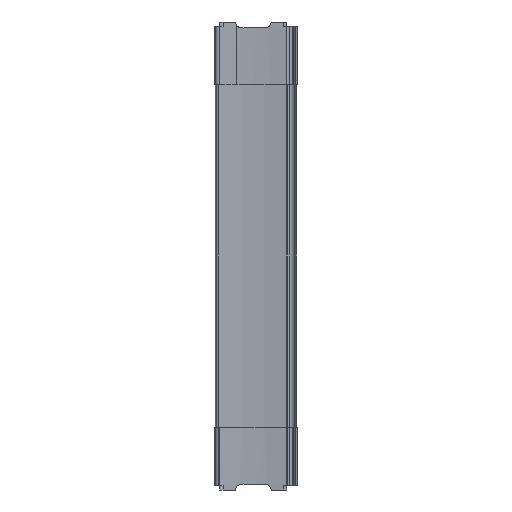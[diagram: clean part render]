
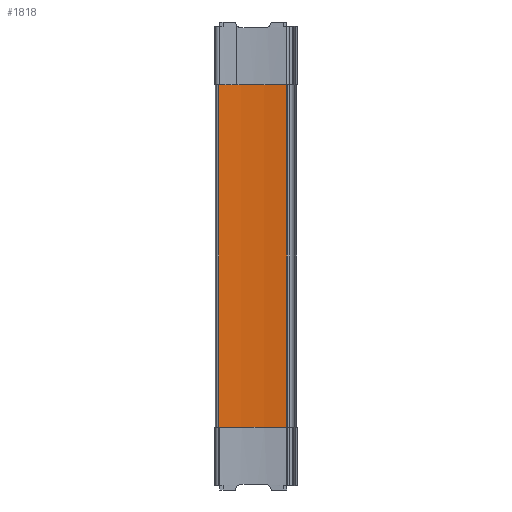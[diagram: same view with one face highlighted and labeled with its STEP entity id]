
A CAD part, left-side view. The second image highlights one B-rep face of the part: STEP entity #1818.
In plain terms, the highlighted cylindrical face has radius 250 mm (diameter 500 mm), a partial arc.
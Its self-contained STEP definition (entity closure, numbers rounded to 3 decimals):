
#60 = ORIENTED_EDGE ( 'NONE', *, *, #2970, .T. ) ;
#61 = ORIENTED_EDGE ( 'NONE', *, *, #738, .F. ) ;
#62 = ORIENTED_EDGE ( 'NONE', *, *, #739, .F. ) ;
#76 = EDGE_LOOP ( 'NONE', ( #683, #62, #61, #60 ) ) ;
#683 = ORIENTED_EDGE ( 'NONE', *, *, #740, .F. ) ;
#738 = EDGE_CURVE ( 'NONE', #3702, #3715, #4149, .T. ) ;
#739 = EDGE_CURVE ( 'NONE', #3715, #3716, #4158, .T. ) ;
#740 = EDGE_CURVE ( 'NONE', #3716, #3695, #4146, .T. ) ;
#817 = LINE ( 'NONE', #1450, #820 ) ;
#820 = VECTOR ( 'NONE', #1451, 1000. ) ;
#1450 = CARTESIAN_POINT ( 'NONE',  ( -5.747, 63.571, 145.3 ) ) ;
#1451 = DIRECTION ( 'NONE',  ( 0., 0., -1. ) ) ;
#1729 = CARTESIAN_POINT ( 'NONE',  ( -5.747, 63.571, -139.3 ) ) ;
#1734 = CARTESIAN_POINT ( 'NONE',  ( -5.747, 63.571, 139.3 ) ) ;
#1742 = CARTESIAN_POINT ( 'NONE',  ( -8.643, 8.331, 139.3 ) ) ;
#1743 = CARTESIAN_POINT ( 'NONE',  ( -8.643, 8.331, -139.3 ) ) ;
#1818 = ADVANCED_FACE ( 'NONE', ( #4045 ), #4023, .F. ) ;
#2970 = EDGE_CURVE ( 'NONE', #3702, #3695, #817, .T. ) ;
#2994 = AXIS2_PLACEMENT_3D ( 'NONE', #3259, #3245, #3246 ) ;
#2998 = AXIS2_PLACEMENT_3D ( 'NONE', #3269, #3254, #3255 ) ;
#3055 = AXIS2_PLACEMENT_3D ( 'NONE', #3822, #3821, #3820 ) ;
#3245 = DIRECTION ( 'NONE',  ( 0., 0., 1. ) ) ;
#3246 = DIRECTION ( 'NONE',  ( -1., 0., 0. ) ) ;
#3254 = DIRECTION ( 'NONE',  ( 0., 0., -1. ) ) ;
#3255 = DIRECTION ( 'NONE',  ( 1., 0., 0. ) ) ;
#3257 = CARTESIAN_POINT ( 'NONE',  ( -8.643, 8.331, 145.3 ) ) ;
#3258 = DIRECTION ( 'NONE',  ( 0., 0., -1. ) ) ;
#3259 = CARTESIAN_POINT ( 'NONE',  ( -255.319, 48.963, -139.3 ) ) ;
#3269 = CARTESIAN_POINT ( 'NONE',  ( -255.319, 48.963, 139.3 ) ) ;
#3695 = VERTEX_POINT ( 'NONE', #1729 ) ;
#3702 = VERTEX_POINT ( 'NONE', #1734 ) ;
#3715 = VERTEX_POINT ( 'NONE', #1742 ) ;
#3716 = VERTEX_POINT ( 'NONE', #1743 ) ;
#3820 = DIRECTION ( 'NONE',  ( -1., 0., 0. ) ) ;
#3821 = DIRECTION ( 'NONE',  ( 0., 0., -1. ) ) ;
#3822 = CARTESIAN_POINT ( 'NONE',  ( -255.319, 48.963, 145.3 ) ) ;
#4023 = CYLINDRICAL_SURFACE ( 'NONE', #3055, 250. ) ;
#4045 = FACE_OUTER_BOUND ( 'NONE', #76, .T. ) ;
#4146 = CIRCLE ( 'NONE', #2994, 250. ) ;
#4149 = CIRCLE ( 'NONE', #2998, 250. ) ;
#4151 = VECTOR ( 'NONE', #3258, 1000. ) ;
#4158 = LINE ( 'NONE', #3257, #4151 ) ;
